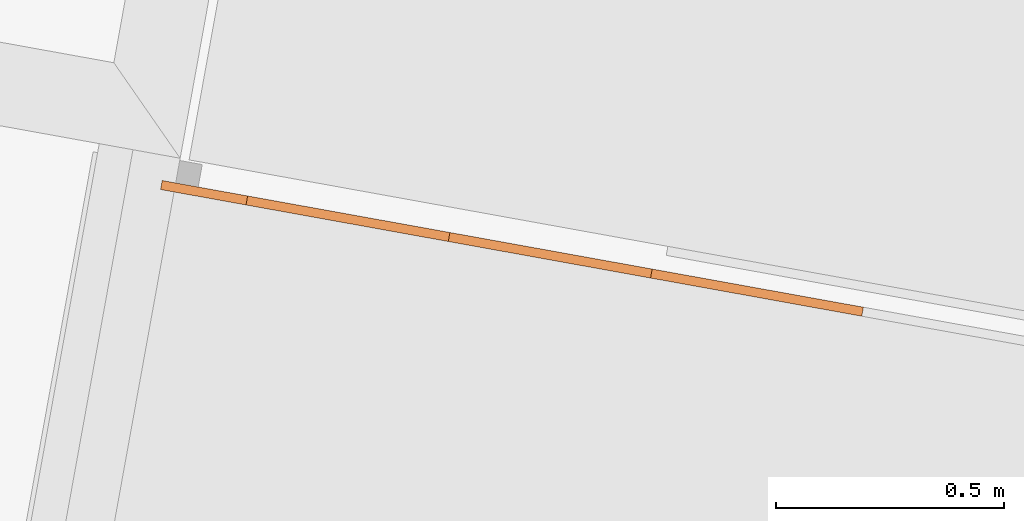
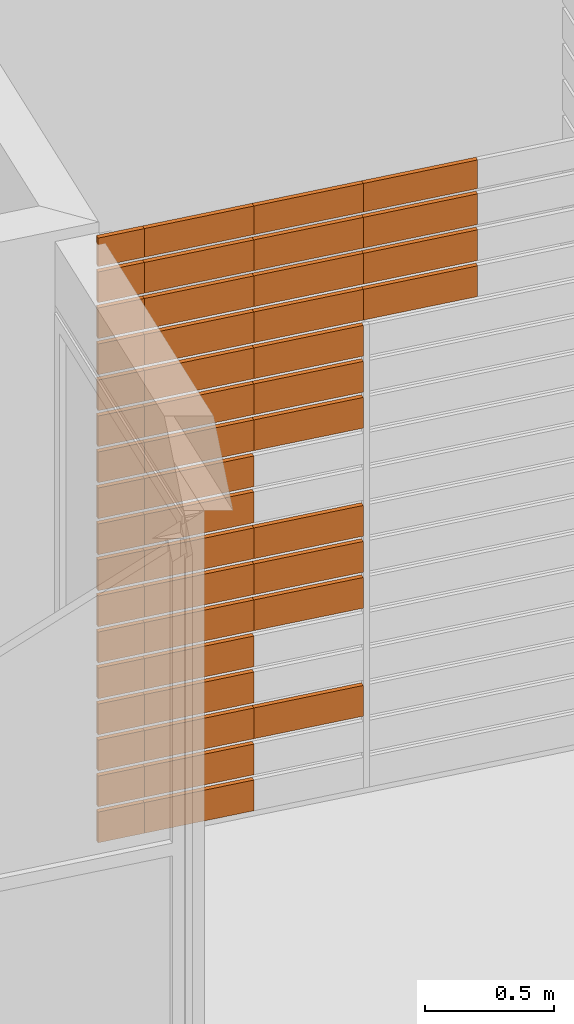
# One storey, part 28 of 52: 49 proxies, 1 element without a shape of its own.
"""IFC2X3 building model written with IfcOpenShell, lengths in metres."""

import ifcopenshell
import ifcopenshell.guid

model = None  # the IFC model being written
_history = None  # IfcOwnerHistory: only IFC2X3 demands one
_inside = {}  # id of a spatial element -> (the spatial element, [elements in it])
_under = {}  # id of a project, library or spatial element -> (it, [spatial elements below it])
_declared = {}  # id of a project -> (the project, [libraries it declares])
_typed = {}  # id of a type object -> (the type object, [elements of that type])
_made_of = {}  # id of a material, layer set ... -> (it, [elements and type objects made of it])


def new_model(schema):
    """Start an empty IFC model of exactly this schema.

    Asked for "IFC4X3", IfcOpenShell would pick the latest addendum, in which some entities
    have other attributes; the version numbers below select the first issue.
    IFC2X3 requires an IfcOwnerHistory on every rooted entity: one is made here for all.
    """
    global model, _history
    if schema == "IFC4X3":
        model = ifcopenshell.file(schema_version=(4, 3, 0, 0))
    else:
        model = ifcopenshell.file(schema=schema)
    _inside.clear()
    _under.clear()
    _declared.clear()
    _typed.clear()
    _made_of.clear()
    _history = None
    if model.schema == "IFC2X3":
        org = make("IfcOrganization", Name="unknown")
        user = make(
            "IfcPersonAndOrganization",
            ThePerson=make("IfcPerson", FamilyName="unknown"),
            TheOrganization=org,
        )
        app = make(
            "IfcApplication",
            ApplicationDeveloper=org,
            Version="unknown",
            ApplicationFullName="unknown",
            ApplicationIdentifier="unknown",
        )
        _history = make(
            "IfcOwnerHistory",
            OwningUser=user,
            OwningApplication=app,
            ChangeAction="ADDED",
            CreationDate=0,
        )
    return model


def make(cls, **values):
    """One entity of the class cls with the attributes given. An attribute that is None is left unset."""
    return model.create_entity(
        cls, **{name: value for name, value in values.items() if value is not None}
    )


def entity(cls, *values):
    """Any entity or typed value of the class cls, its attributes in the order of the schema. None: left unset."""
    e = model.create_entity(cls)
    for i, value in enumerate(values):
        if value is not None:
            e[i] = value
    return e


def rooted(cls, **values):
    """An entity with a GlobalId (a new one), such as an element, a storey or a relation."""
    return make(cls, GlobalId=ifcopenshell.guid.new(), OwnerHistory=_history, **values)


def si_unit(unit_type, name, prefix=None):
    """IfcSIUnit, for example si_unit("LENGTHUNIT", "METRE", prefix="MILLI")."""
    return make("IfcSIUnit", UnitType=unit_type, Prefix=prefix, Name=name)


def converted_unit(unit_type, name, factor, base, dimensions=None, offset=None):
    """IfcConversionBasedUnit, such as the inch: factor (a typed value) times the base unit."""
    return make(
        "IfcConversionBasedUnit"
        if offset is None
        else "IfcConversionBasedUnitWithOffset",
        ConversionOffset=offset,
        Dimensions=None
        if dimensions is None
        else entity("IfcDimensionalExponents", *dimensions),
        UnitType=unit_type,
        Name=name,
        ConversionFactor=make(
            "IfcMeasureWithUnit", ValueComponent=factor, UnitComponent=base
        ),
    )


def derived_unit(unit_type, elements):
    """IfcDerivedUnit: a product of units, each with its exponent."""
    return make(
        "IfcDerivedUnit",
        Elements=[
            make("IfcDerivedUnitElement", Unit=unit, Exponent=power)
            for unit, power in elements
        ],
        UnitType=unit_type,
    )


def money_unit(currency):
    """IfcMonetaryUnit."""
    return make("IfcMonetaryUnit", Currency=currency)


def assignment(units):
    """IfcUnitAssignment: the units of a project."""
    return None if units is None else make("IfcUnitAssignment", Units=units)


def point(xyz):
    """IfcCartesianPoint."""
    return None if xyz is None else make("IfcCartesianPoint", Coordinates=xyz)


def direction(xyz):
    """IfcDirection."""
    return None if xyz is None else make("IfcDirection", DirectionRatios=xyz)


def frame(location, z_axis=None, x_axis=None):
    """IfcAxis2Placement3D, a coordinate frame: its origin and axes. An axis left out is left unset."""
    return make(
        "IfcAxis2Placement3D",
        Location=point(location),
        Axis=direction(z_axis),
        RefDirection=direction(x_axis),
    )


def origin_with_axes():
    """The frame at (0, 0, 0) with the z axis (0, 0, 1) and the x axis (1, 0, 0) written out."""
    return frame((0.0, 0.0, 0.0), z_axis=(0.0, 0.0, 1.0), x_axis=(1.0, 0.0, 0.0))


def place(relative_to, where):
    """IfcLocalPlacement: puts the frame where relative to a parent placement (None: the world)."""
    return make(
        "IfcLocalPlacement", PlacementRelTo=relative_to, RelativePlacement=where
    )


def context(
    kind, dimensions, precision=None, world=None, true_north=None, identifier=None
):
    """IfcGeometricRepresentationContext, for example the 3D "Model" context."""
    return make(
        "IfcGeometricRepresentationContext",
        ContextIdentifier=identifier,
        ContextType=kind,
        CoordinateSpaceDimension=dimensions,
        Precision=precision,
        WorldCoordinateSystem=world,
        TrueNorth=true_north,
    )


def subcontext(parent, identifier, kind, view, scale=None):
    """IfcGeometricRepresentationSubContext, for example "Body" below "Model"."""
    return make(
        "IfcGeometricRepresentationSubContext",
        ContextIdentifier=identifier,
        ContextType=kind,
        ParentContext=parent,
        TargetScale=scale,
        TargetView=view,
    )


def project(units=None, contexts=None):
    """IfcProject with its units and contexts."""
    return rooted(
        "IfcProject",
        Name="project",
        RepresentationContexts=contexts,
        UnitsInContext=assignment(units),
    )


def spatial(cls, under=None, at=None, **own):
    """A site, building, storey or space (cls), placed at a placement, below another one or the project."""
    s = rooted(cls, ObjectPlacement=at, **own)
    if under is not None:
        _under.setdefault(under.id(), (under, []))[1].append(s)
    return s


def polyline(points):
    """IfcPolyline through the points."""
    return make("IfcPolyline", Points=[point(p) for p in points])


def outline(outer, holes=None, kind="AREA"):
    """IfcArbitraryClosedProfileDef: a profile drawn as a closed curve; with holes, ...WithVoids."""
    if holes is None:
        return make("IfcArbitraryClosedProfileDef", ProfileType=kind, OuterCurve=outer)
    return make(
        "IfcArbitraryProfileDefWithVoids",
        ProfileType=kind,
        OuterCurve=outer,
        InnerCurves=holes,
    )


def extrude(swept, where, along, depth):
    """IfcExtrudedAreaSolid: the profile swept, set in the frame where, extruded along a direction by depth."""
    return make(
        "IfcExtrudedAreaSolid",
        SweptArea=swept,
        Position=where,
        ExtrudedDirection=direction(along),
        Depth=depth,
    )


def shape(context_of_items, identifier, shape_type, items):
    """IfcShapeRepresentation: the items that make up one representation, for example the "Body"."""
    return make(
        "IfcShapeRepresentation",
        ContextOfItems=context_of_items,
        RepresentationIdentifier=identifier,
        RepresentationType=shape_type,
        Items=items,
    )


def material(Name=None, Category=None):
    """IfcMaterial."""
    return make("IfcMaterial", Name=Name, Category=Category)


def made_of(thing, what):
    """Note that an element or type object is made of a material, layer set ...; save() writes the relation."""
    if what is not None:
        _made_of.setdefault(what.id(), (what, []))[1].append(thing)
    return thing


def type_object(cls, material=None, **own):
    """A type object (cls), such as IfcWallType, which elements share."""
    return made_of(rooted(cls, **own), material)


def element(
    cls,
    number,
    at=None,
    inside=None,
    cuts=None,
    type_object=None,
    material=None,
    context=None,
    identifier="Body",
    shape_type=None,
    held_by="IfcProductDefinitionShape",
    body=None,
    shapes=None,
    **own,
):
    """One element of the class cls, such as IfcWall. Its Tag is "e" and its number.

    at: its placement. inside: the storey or other place that contains it. cuts: it is an
    opening in that element (IfcRelVoidsElement). A single representation is given by context,
    identifier, shape_type and body (its items); several are given by shapes. held_by: the class
    of the entity that holds the representations. save() writes the other relations.
    """
    e = rooted(cls, Tag="e%d" % number, ObjectPlacement=at, **own)
    if body is not None:
        shapes = [shape(context, identifier, shape_type, body)]
    if shapes is not None:
        e.Representation = make(held_by, Representations=shapes)
    if inside is not None:
        _inside.setdefault(inside.id(), (inside, []))[1].append(e)
    if cuts is not None:
        rooted(
            "IfcRelVoidsElement", RelatingBuildingElement=cuts, RelatedOpeningElement=e
        )
    if type_object is not None:
        _typed.setdefault(type_object.id(), (type_object, []))[1].append(e)
    return made_of(e, material)


def aggregate(whole, parts):
    """IfcRelAggregates: a whole, such as a stair, and the parts it consists of."""
    return rooted("IfcRelAggregates", RelatingObject=whole, RelatedObjects=parts)


def save(model, path):
    """Write the relations noted so far, then the file.

    IfcRelAggregates (storeys below a building ...), IfcRelContainedInSpatialStructure (elements
    in a storey), IfcRelDefinesByType, IfcRelAssociatesMaterial and IfcRelDeclares: one each for
    every whole, place, type object, material and project.
    """
    for whole, parts in _under.values():
        aggregate(whole, parts)
    for where, things in _inside.values():
        rooted(
            "IfcRelContainedInSpatialStructure",
            RelatedElements=things,
            RelatingStructure=where,
        )
    for kind, things in _typed.values():
        rooted("IfcRelDefinesByType", RelatedObjects=things, RelatingType=kind)
    for what, things in _made_of.values():
        rooted("IfcRelAssociatesMaterial", RelatedObjects=things, RelatingMaterial=what)
    for by, libraries in _declared.values():
        rooted("IfcRelDeclares", RelatingContext=by, RelatedDefinitions=libraries)
    model.write(path)


model = new_model("IFC2X3")

# Units and contexts
model_context = context("Model", 3, precision=1e-05, world=origin_with_axes(), true_north=direction((0.0, 1.0)))
body_context = subcontext(model_context, "Body", "Model", "MODEL_VIEW")
ifc_project = project(units=[si_unit("LENGTHUNIT", "METRE"), si_unit("AREAUNIT", "SQUARE_METRE"), si_unit("VOLUMEUNIT", "CUBIC_METRE"), converted_unit("PLANEANGLEUNIT", "DEGREE", entity("IfcPlaneAngleMeasure", 0.0174532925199), si_unit("PLANEANGLEUNIT", "RADIAN"), dimensions=[0, 0, 0, 0, 0, 0, 0]), money_unit("CHF"), converted_unit("TIMEUNIT", "Year", entity("IfcTimeMeasure", 31556926.0), si_unit("TIMEUNIT", "SECOND"), dimensions=[0, 0, 1, 0, 0, 0, 0]), si_unit("MASSUNIT", "GRAM", prefix="KILO"), si_unit("THERMODYNAMICTEMPERATUREUNIT", "DEGREE_CELSIUS"), si_unit("LUMINOUSINTENSITYUNIT", "LUMEN"), si_unit("ENERGYUNIT", "JOULE", prefix="MEGA"), derived_unit("THERMALCONDUCTANCEUNIT", [(si_unit("POWERUNIT", "WATT"), 1), (si_unit("LENGTHUNIT", "METRE"), -1), (si_unit("THERMODYNAMICTEMPERATUREUNIT", "KELVIN"), -1)]), derived_unit("SPECIFICHEATCAPACITYUNIT", [(si_unit("ENERGYUNIT", "JOULE"), 1), (si_unit("MASSUNIT", "GRAM", prefix="KILO"), -1), (si_unit("THERMODYNAMICTEMPERATUREUNIT", "KELVIN"), -1)]), derived_unit("MASSDENSITYUNIT", [(si_unit("MASSUNIT", "GRAM", prefix="KILO"), 1), (si_unit("VOLUMEUNIT", "CUBIC_METRE"), -1)])], contexts=[model_context])

# Site, building, storey
site_placement = place(None, frame((0.0, 0.0, 0.0), z_axis=(0.0, 0.0, 1.0), x_axis=(-0.177771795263, -0.984071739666, 0.0)))
site = spatial("IfcSite", under=ifc_project, at=site_placement, Name="Site", CompositionType="ELEMENT")
building_placement = place(site_placement, origin_with_axes())
building = spatial("IfcBuilding", under=site, at=building_placement, Name="Bâtiment", CompositionType="ELEMENT")
storey_placement = place(building_placement, frame((0.0, 0.0, 3.2), z_axis=(0.0, 0.0, 1.0), x_axis=(1.0, 0.0, 0.0)))
storey = spatial("IfcBuildingStorey", under=building, at=storey_placement, Name="R+1", CompositionType="ELEMENT", Elevation=3.2)

# Curtain wall, proxies
curtain_wall_type = type_object("IfcCurtainWallType", Name="Type de mur-rideau", PredefinedType="NOTDEFINED")
curtain_wall_placement = place(storey_placement, frame((0.0, 0.0, -3.2), z_axis=(0.0, 0.0, 1.0), x_axis=(1.0, 0.0, 0.0)))
curtain_wall = element("IfcCurtainWall", 1, at=curtain_wall_placement, inside=storey, type_object=curtain_wall_type, Name="pare-vue CTA")
ifc_material = material(Name="Matériau de construction IFC")
building_element_proxy_type_1 = type_object("IfcBuildingElementProxyType", Name="Panneau principal 450 x 170 x 20", PredefinedType="NOTDEFINED")
proxy_1_placement = place(curtain_wall_placement, frame((141.359841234, -151.882034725, 5.5075), z_axis=(0.0, 0.0, 1.0), x_axis=(-4.03765126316e-09, 1.0, 0.0)))
proxy_1 = element("IfcBuildingElementProxy", 2, at=proxy_1_placement, type_object=building_element_proxy_type_1, material=ifc_material, Name="Panel-Main-242", context=body_context, shape_type="SweptSolid", body=[
    extrude(outline(polyline([(-0.225, -0.0725), (0.225, -0.0725), (0.225, 0.0725000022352), (-0.225, 0.0725000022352), (-0.225, -0.0725)])), frame((0.0, -0.00999999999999, 0.0), z_axis=(0.0, 1.0, 0.0), x_axis=(1.0, 0.0, 0.0)), (0.0, 0.0, 1.0), 0.02),
])
proxy_2_placement = place(curtain_wall_placement, frame((141.359841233, -151.432034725, 5.8475), z_axis=(0.0, 0.0, 1.0), x_axis=(-4.03758798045e-09, 1.0, 0.0)))
proxy_2 = element("IfcBuildingElementProxy", 3, at=proxy_2_placement, type_object=building_element_proxy_type_1, material=ifc_material, Name="Panel-Main-208", context=body_context, shape_type="SweptSolid", body=[
    extrude(outline(polyline([(-0.225, -0.0725), (0.225, -0.0725), (0.225, 0.0725000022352), (-0.225, 0.0725000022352), (-0.225, -0.0725)])), frame((0.0, -0.01, 0.0), z_axis=(0.0, 1.0, 0.0), x_axis=(1.0, 0.0, 0.0)), (0.0, 0.0, 1.0), 0.02),
])
proxy_3_placement = place(curtain_wall_placement, frame((141.359841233, -151.432034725, 5.6775), z_axis=(0.0, 0.0, 1.0), x_axis=(-4.03758798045e-09, 1.0, 0.0)))
proxy_3 = element("IfcBuildingElementProxy", 4, at=proxy_3_placement, type_object=building_element_proxy_type_1, material=ifc_material, Name="Panel-Main-208", context=body_context, shape_type="SweptSolid", body=[
    extrude(outline(polyline([(-0.225, -0.0725), (0.225, -0.0725), (0.225, 0.0725000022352), (-0.225, 0.0725000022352), (-0.225, -0.0725)])), frame((0.0, -0.01, 0.0), z_axis=(0.0, 1.0, 0.0), x_axis=(1.0, 0.0, 0.0)), (0.0, 0.0, 1.0), 0.02),
])
proxy_4_placement = place(curtain_wall_placement, frame((141.359841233, -151.432034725, 5.5075), z_axis=(0.0, 0.0, 1.0), x_axis=(-4.03758798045e-09, 1.0, 0.0)))
proxy_4 = element("IfcBuildingElementProxy", 5, at=proxy_4_placement, type_object=building_element_proxy_type_1, material=ifc_material, Name="Panel-Main-208", context=body_context, shape_type="SweptSolid", body=[
    extrude(outline(polyline([(-0.225, -0.0725), (0.225, -0.0725), (0.225, 0.0725000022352), (-0.225, 0.0725000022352), (-0.225, -0.0725)])), frame((0.0, -0.01, 0.0), z_axis=(0.0, 1.0, 0.0), x_axis=(1.0, 0.0, 0.0)), (0.0, 0.0, 1.0), 0.02),
])
proxy_5_placement = place(curtain_wall_placement, frame((141.359841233, -151.432034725, 5.3375), z_axis=(0.0, 0.0, 1.0), x_axis=(-4.03758798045e-09, 1.0, 0.0)))
proxy_5 = element("IfcBuildingElementProxy", 6, at=proxy_5_placement, type_object=building_element_proxy_type_1, material=ifc_material, Name="Panel-Main-208", context=body_context, shape_type="SweptSolid", body=[
    extrude(outline(polyline([(-0.225, -0.0725), (0.225, -0.0725), (0.225, 0.0725000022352), (-0.225, 0.0725000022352), (-0.225, -0.0725)])), frame((0.0, -0.01, 0.0), z_axis=(0.0, 1.0, 0.0), x_axis=(1.0, 0.0, 0.0)), (0.0, 0.0, 1.0), 0.02),
])
proxy_6_placement = place(curtain_wall_placement, frame((141.359841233, -151.432034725, 5.1675), z_axis=(0.0, 0.0, 1.0), x_axis=(-4.03758798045e-09, 1.0, 0.0)))
proxy_6 = element("IfcBuildingElementProxy", 7, at=proxy_6_placement, type_object=building_element_proxy_type_1, material=ifc_material, Name="Panel-Main-208", context=body_context, shape_type="SweptSolid", body=[
    extrude(outline(polyline([(-0.225, -0.0725), (0.225, -0.0725), (0.225, 0.0725000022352), (-0.225, 0.0725000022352), (-0.225, -0.0725)])), frame((0.0, -0.01, 0.0), z_axis=(0.0, 1.0, 0.0), x_axis=(1.0, 0.0, 0.0)), (0.0, 0.0, 1.0), 0.02),
])
proxy_7_placement = place(curtain_wall_placement, frame((141.359841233, -151.432034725, 4.9975), z_axis=(0.0, 0.0, 1.0), x_axis=(-4.03758798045e-09, 1.0, 0.0)))
proxy_7 = element("IfcBuildingElementProxy", 8, at=proxy_7_placement, type_object=building_element_proxy_type_1, material=ifc_material, Name="Panel-Main-208", context=body_context, shape_type="SweptSolid", body=[
    extrude(outline(polyline([(-0.225, -0.0725), (0.225, -0.0725), (0.225, 0.0725000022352), (-0.225, 0.0725000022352), (-0.225, -0.0725)])), frame((0.0, -0.01, 0.0), z_axis=(0.0, 1.0, 0.0), x_axis=(1.0, 0.0, 0.0)), (0.0, 0.0, 1.0), 0.02),
])
proxy_8_placement = place(curtain_wall_placement, frame((141.359841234, -151.882034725, 5.6775), z_axis=(0.0, 0.0, 1.0), x_axis=(-4.03765126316e-09, 1.0, 0.0)))
proxy_8 = element("IfcBuildingElementProxy", 9, at=proxy_8_placement, type_object=building_element_proxy_type_1, material=ifc_material, Name="Panel-Main-243", context=body_context, shape_type="SweptSolid", body=[
    extrude(outline(polyline([(-0.225, -0.0725), (0.225, -0.0725), (0.225, 0.0725000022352), (-0.225, 0.0725000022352), (-0.225, -0.0725)])), frame((0.0, -0.00999999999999, 0.0), z_axis=(0.0, 1.0, 0.0), x_axis=(1.0, 0.0, 0.0)), (0.0, 0.0, 1.0), 0.02),
])
proxy_9_placement = place(curtain_wall_placement, frame((141.359841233, -151.432034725, 4.4875), z_axis=(0.0, 0.0, 1.0), x_axis=(-4.03758798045e-09, 1.0, 0.0)))
proxy_9 = element("IfcBuildingElementProxy", 10, at=proxy_9_placement, type_object=building_element_proxy_type_1, material=ifc_material, Name="Panel-Main-208", context=body_context, shape_type="SweptSolid", body=[
    extrude(outline(polyline([(-0.225, -0.0725), (0.225, -0.0725), (0.225, 0.0725000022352), (-0.225, 0.0725000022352), (-0.225, -0.0725)])), frame((0.0, -0.01, 0.0), z_axis=(0.0, 1.0, 0.0), x_axis=(1.0, 0.0, 0.0)), (0.0, 0.0, 1.0), 0.02),
])
proxy_10_placement = place(curtain_wall_placement, frame((141.359841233, -151.432034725, 4.3175), z_axis=(0.0, 0.0, 1.0), x_axis=(-4.03758798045e-09, 1.0, 0.0)))
proxy_10 = element("IfcBuildingElementProxy", 11, at=proxy_10_placement, type_object=building_element_proxy_type_1, material=ifc_material, Name="Panel-Main-208", context=body_context, shape_type="SweptSolid", body=[
    extrude(outline(polyline([(-0.225, -0.0725), (0.225, -0.0725), (0.225, 0.0725000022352), (-0.225, 0.0725000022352), (-0.225, -0.0725)])), frame((0.0, -0.01, 0.0), z_axis=(0.0, 1.0, 0.0), x_axis=(1.0, 0.0, 0.0)), (0.0, 0.0, 1.0), 0.02),
])
proxy_11_placement = place(curtain_wall_placement, frame((141.359841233, -151.432034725, 4.1475), z_axis=(0.0, 0.0, 1.0), x_axis=(-4.03758798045e-09, 1.0, 0.0)))
proxy_11 = element("IfcBuildingElementProxy", 12, at=proxy_11_placement, type_object=building_element_proxy_type_1, material=ifc_material, Name="Panel-Main-208", context=body_context, shape_type="SweptSolid", body=[
    extrude(outline(polyline([(-0.225, -0.0725), (0.225, -0.0725), (0.225, 0.0725000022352), (-0.225, 0.0725000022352), (-0.225, -0.0725)])), frame((0.0, -0.01, 0.0), z_axis=(0.0, 1.0, 0.0), x_axis=(1.0, 0.0, 0.0)), (0.0, 0.0, 1.0), 0.02),
])
proxy_12_placement = place(curtain_wall_placement, frame((141.359841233, -151.432034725, 3.6375), z_axis=(0.0, 0.0, 1.0), x_axis=(-4.03758798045e-09, 1.0, 0.0)))
proxy_12 = element("IfcBuildingElementProxy", 13, at=proxy_12_placement, type_object=building_element_proxy_type_1, material=ifc_material, Name="Panel-Main-208", context=body_context, shape_type="SweptSolid", body=[
    extrude(outline(polyline([(-0.225, -0.0725), (0.225, -0.0725), (0.225, 0.0725000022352), (-0.225, 0.0725000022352), (-0.225, -0.0725)])), frame((0.0, -0.01, 0.0), z_axis=(0.0, 1.0, 0.0), x_axis=(1.0, 0.0, 0.0)), (0.0, 0.0, 1.0), 0.02),
])
proxy_13_placement = place(curtain_wall_placement, frame((141.359841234, -151.882034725, 5.8475), z_axis=(0.0, 0.0, 1.0), x_axis=(-4.03765126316e-09, 1.0, 0.0)))
proxy_13 = element("IfcBuildingElementProxy", 14, at=proxy_13_placement, type_object=building_element_proxy_type_1, material=ifc_material, Name="Panel-Main-244", context=body_context, shape_type="SweptSolid", body=[
    extrude(outline(polyline([(-0.225, -0.0725), (0.225, -0.0725), (0.225, 0.0725000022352), (-0.225, 0.0725000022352), (-0.225, -0.0725)])), frame((0.0, -0.00999999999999, 0.0), z_axis=(0.0, 1.0, 0.0), x_axis=(1.0, 0.0, 0.0)), (0.0, 0.0, 1.0), 0.02),
])
proxy_14_placement = place(curtain_wall_placement, frame((141.359841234, -151.882034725, 3.2975), z_axis=(0.0, 0.0, 1.0), x_axis=(-4.03765126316e-09, 1.0, 0.0)))
proxy_14 = element("IfcBuildingElementProxy", 15, at=proxy_14_placement, type_object=building_element_proxy_type_1, material=ifc_material, Name="Panel-Main-229", context=body_context, shape_type="SweptSolid", body=[
    extrude(outline(polyline([(-0.225, -0.0725), (0.225, -0.0725), (0.225, 0.0725000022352), (-0.225, 0.0725000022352), (-0.225, -0.0725)])), frame((0.0, -0.00999999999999, 0.0), z_axis=(0.0, 1.0, 0.0), x_axis=(1.0, 0.0, 0.0)), (0.0, 0.0, 1.0), 0.02),
])
proxy_15_placement = place(curtain_wall_placement, frame((141.359841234, -151.882034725, 3.4675), z_axis=(0.0, 0.0, 1.0), x_axis=(-4.03765126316e-09, 1.0, 0.0)))
proxy_15 = element("IfcBuildingElementProxy", 16, at=proxy_15_placement, type_object=building_element_proxy_type_1, material=ifc_material, Name="Panel-Main-230", context=body_context, shape_type="SweptSolid", body=[
    extrude(outline(polyline([(-0.225, -0.0725), (0.225, -0.0725), (0.225, 0.0725000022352), (-0.225, 0.0725000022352), (-0.225, -0.0725)])), frame((0.0, -0.00999999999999, 0.0), z_axis=(0.0, 1.0, 0.0), x_axis=(1.0, 0.0, 0.0)), (0.0, 0.0, 1.0), 0.02),
])
proxy_16_placement = place(curtain_wall_placement, frame((141.359841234, -151.882034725, 3.6375), z_axis=(0.0, 0.0, 1.0), x_axis=(-4.03765126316e-09, 1.0, 0.0)))
proxy_16 = element("IfcBuildingElementProxy", 17, at=proxy_16_placement, type_object=building_element_proxy_type_1, material=ifc_material, Name="Panel-Main-231", context=body_context, shape_type="SweptSolid", body=[
    extrude(outline(polyline([(-0.225, -0.0725), (0.225, -0.0725), (0.225, 0.0725000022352), (-0.225, 0.0725000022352), (-0.225, -0.0725)])), frame((0.0, -0.00999999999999, 0.0), z_axis=(0.0, 1.0, 0.0), x_axis=(1.0, 0.0, 0.0)), (0.0, 0.0, 1.0), 0.02),
])
proxy_17_placement = place(curtain_wall_placement, frame((141.359841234, -151.882034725, 3.8075), z_axis=(0.0, 0.0, 1.0), x_axis=(-4.03765126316e-09, 1.0, 0.0)))
proxy_17 = element("IfcBuildingElementProxy", 18, at=proxy_17_placement, type_object=building_element_proxy_type_1, material=ifc_material, Name="Panel-Main-232", context=body_context, shape_type="SweptSolid", body=[
    extrude(outline(polyline([(-0.225, -0.0725), (0.225, -0.0725), (0.225, 0.0725000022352), (-0.225, 0.0725000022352), (-0.225, -0.0725)])), frame((0.0, -0.00999999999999, 0.0), z_axis=(0.0, 1.0, 0.0), x_axis=(1.0, 0.0, 0.0)), (0.0, 0.0, 1.0), 0.02),
])
proxy_18_placement = place(curtain_wall_placement, frame((141.359841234, -151.882034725, 3.9775), z_axis=(0.0, 0.0, 1.0), x_axis=(-4.03765126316e-09, 1.0, 0.0)))
proxy_18 = element("IfcBuildingElementProxy", 19, at=proxy_18_placement, type_object=building_element_proxy_type_1, material=ifc_material, Name="Panel-Main-233", context=body_context, shape_type="SweptSolid", body=[
    extrude(outline(polyline([(-0.225, -0.0725), (0.225, -0.0725), (0.225, 0.0725000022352), (-0.225, 0.0725000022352), (-0.225, -0.0725)])), frame((0.0, -0.00999999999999, 0.0), z_axis=(0.0, 1.0, 0.0), x_axis=(1.0, 0.0, 0.0)), (0.0, 0.0, 1.0), 0.02),
])
proxy_19_placement = place(curtain_wall_placement, frame((141.359841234, -151.882034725, 4.1475), z_axis=(0.0, 0.0, 1.0), x_axis=(-4.03765126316e-09, 1.0, 0.0)))
proxy_19 = element("IfcBuildingElementProxy", 20, at=proxy_19_placement, type_object=building_element_proxy_type_1, material=ifc_material, Name="Panel-Main-234", context=body_context, shape_type="SweptSolid", body=[
    extrude(outline(polyline([(-0.225, -0.0725), (0.225, -0.0725), (0.225, 0.0725000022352), (-0.225, 0.0725000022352), (-0.225, -0.0725)])), frame((0.0, -0.00999999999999, 0.0), z_axis=(0.0, 1.0, 0.0), x_axis=(1.0, 0.0, 0.0)), (0.0, 0.0, 1.0), 0.02),
])
proxy_20_placement = place(curtain_wall_placement, frame((141.359841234, -151.882034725, 4.3175), z_axis=(0.0, 0.0, 1.0), x_axis=(-4.03765126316e-09, 1.0, 0.0)))
proxy_20 = element("IfcBuildingElementProxy", 21, at=proxy_20_placement, type_object=building_element_proxy_type_1, material=ifc_material, Name="Panel-Main-235", context=body_context, shape_type="SweptSolid", body=[
    extrude(outline(polyline([(-0.225, -0.0725), (0.225, -0.0725), (0.225, 0.0725000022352), (-0.225, 0.0725000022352), (-0.225, -0.0725)])), frame((0.0, -0.00999999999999, 0.0), z_axis=(0.0, 1.0, 0.0), x_axis=(1.0, 0.0, 0.0)), (0.0, 0.0, 1.0), 0.02),
])
proxy_21_placement = place(curtain_wall_placement, frame((141.359841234, -151.882034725, 4.4875), z_axis=(0.0, 0.0, 1.0), x_axis=(-4.03765126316e-09, 1.0, 0.0)))
proxy_21 = element("IfcBuildingElementProxy", 22, at=proxy_21_placement, type_object=building_element_proxy_type_1, material=ifc_material, Name="Panel-Main-236", context=body_context, shape_type="SweptSolid", body=[
    extrude(outline(polyline([(-0.225, -0.0725), (0.225, -0.0725), (0.225, 0.0725000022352), (-0.225, 0.0725000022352), (-0.225, -0.0725)])), frame((0.0, -0.00999999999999, 0.0), z_axis=(0.0, 1.0, 0.0), x_axis=(1.0, 0.0, 0.0)), (0.0, 0.0, 1.0), 0.02),
])
proxy_22_placement = place(curtain_wall_placement, frame((141.359841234, -151.882034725, 4.6575), z_axis=(0.0, 0.0, 1.0), x_axis=(-4.03765126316e-09, 1.0, 0.0)))
proxy_22 = element("IfcBuildingElementProxy", 23, at=proxy_22_placement, type_object=building_element_proxy_type_1, material=ifc_material, Name="Panel-Main-237", context=body_context, shape_type="SweptSolid", body=[
    extrude(outline(polyline([(-0.225, -0.0725), (0.225, -0.0725), (0.225, 0.0725000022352), (-0.225, 0.0725000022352), (-0.225, -0.0725)])), frame((0.0, -0.00999999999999, 0.0), z_axis=(0.0, 1.0, 0.0), x_axis=(1.0, 0.0, 0.0)), (0.0, 0.0, 1.0), 0.02),
])
proxy_23_placement = place(curtain_wall_placement, frame((141.359841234, -151.882034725, 4.8275), z_axis=(0.0, 0.0, 1.0), x_axis=(-4.03765126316e-09, 1.0, 0.0)))
proxy_23 = element("IfcBuildingElementProxy", 24, at=proxy_23_placement, type_object=building_element_proxy_type_1, material=ifc_material, Name="Panel-Main-238", context=body_context, shape_type="SweptSolid", body=[
    extrude(outline(polyline([(-0.225, -0.0725), (0.225, -0.0725), (0.225, 0.0725000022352), (-0.225, 0.0725000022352), (-0.225, -0.0725)])), frame((0.0, -0.00999999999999, 0.0), z_axis=(0.0, 1.0, 0.0), x_axis=(1.0, 0.0, 0.0)), (0.0, 0.0, 1.0), 0.02),
])
proxy_24_placement = place(curtain_wall_placement, frame((141.359841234, -151.882034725, 4.9975), z_axis=(0.0, 0.0, 1.0), x_axis=(-4.03765126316e-09, 1.0, 0.0)))
proxy_24 = element("IfcBuildingElementProxy", 25, at=proxy_24_placement, type_object=building_element_proxy_type_1, material=ifc_material, Name="Panel-Main-239", context=body_context, shape_type="SweptSolid", body=[
    extrude(outline(polyline([(-0.225, -0.0725), (0.225, -0.0725), (0.225, 0.0725000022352), (-0.225, 0.0725000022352), (-0.225, -0.0725)])), frame((0.0, -0.00999999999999, 0.0), z_axis=(0.0, 1.0, 0.0), x_axis=(1.0, 0.0, 0.0)), (0.0, 0.0, 1.0), 0.02),
])
proxy_25_placement = place(curtain_wall_placement, frame((141.359841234, -151.882034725, 5.1675), z_axis=(0.0, 0.0, 1.0), x_axis=(-4.03765126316e-09, 1.0, 0.0)))
proxy_25 = element("IfcBuildingElementProxy", 26, at=proxy_25_placement, type_object=building_element_proxy_type_1, material=ifc_material, Name="Panel-Main-240", context=body_context, shape_type="SweptSolid", body=[
    extrude(outline(polyline([(-0.225, -0.0725), (0.225, -0.0725), (0.225, 0.0725000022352), (-0.225, 0.0725000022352), (-0.225, -0.0725)])), frame((0.0, -0.00999999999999, 0.0), z_axis=(0.0, 1.0, 0.0), x_axis=(1.0, 0.0, 0.0)), (0.0, 0.0, 1.0), 0.02),
])
proxy_26_placement = place(curtain_wall_placement, frame((141.359841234, -151.882034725, 5.3375), z_axis=(0.0, 0.0, 1.0), x_axis=(-4.03765126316e-09, 1.0, 0.0)))
proxy_26 = element("IfcBuildingElementProxy", 27, at=proxy_26_placement, type_object=building_element_proxy_type_1, material=ifc_material, Name="Panel-Main-241", context=body_context, shape_type="SweptSolid", body=[
    extrude(outline(polyline([(-0.225, -0.0725), (0.225, -0.0725), (0.225, 0.0725000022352), (-0.225, 0.0725000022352), (-0.225, -0.0725)])), frame((0.0, -0.00999999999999, 0.0), z_axis=(0.0, 1.0, 0.0), x_axis=(1.0, 0.0, 0.0)), (0.0, 0.0, 1.0), 0.02),
])
building_element_proxy_type_2 = type_object("IfcBuildingElementProxyType", Name="Panneau principal 470 x 170 x 20", PredefinedType="NOTDEFINED")
proxy_27_placement = place(curtain_wall_placement, frame((141.359841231, -150.972034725, 5.8475), z_axis=(0.0, 0.0, 1.0), x_axis=(-4.03763638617e-09, 1.0, 0.0)))
proxy_27 = element("IfcBuildingElementProxy", 28, at=proxy_27_placement, type_object=building_element_proxy_type_2, material=ifc_material, Name="Panel-Main-208", context=body_context, shape_type="SweptSolid", body=[
    extrude(outline(polyline([(-0.235, -0.0724999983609), (0.235, -0.0724999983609), (0.235, 0.0724999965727), (-0.235, 0.0724999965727), (-0.235, -0.0724999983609)])), frame((0.0, -0.00999999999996, 0.0), z_axis=(0.0, 1.0, 0.0), x_axis=(1.0, 0.0, 0.0)), (0.0, 0.0, 1.0), 0.02),
])
proxy_28_placement = place(curtain_wall_placement, frame((141.359841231, -150.972034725, 5.6775), z_axis=(0.0, 0.0, 1.0), x_axis=(-4.03763638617e-09, 1.0, 0.0)))
proxy_28 = element("IfcBuildingElementProxy", 29, at=proxy_28_placement, type_object=building_element_proxy_type_2, material=ifc_material, Name="Panel-Main-208", context=body_context, shape_type="SweptSolid", body=[
    extrude(outline(polyline([(-0.235, -0.0724999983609), (0.235, -0.0724999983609), (0.235, 0.0724999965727), (-0.235, 0.0724999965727), (-0.235, -0.0724999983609)])), frame((0.0, -0.00999999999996, 0.0), z_axis=(0.0, 1.0, 0.0), x_axis=(1.0, 0.0, 0.0)), (0.0, 0.0, 1.0), 0.02),
])
proxy_29_placement = place(curtain_wall_placement, frame((141.359841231, -150.972034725, 5.5075), z_axis=(0.0, 0.0, 1.0), x_axis=(-4.03763638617e-09, 1.0, 0.0)))
proxy_29 = element("IfcBuildingElementProxy", 30, at=proxy_29_placement, type_object=building_element_proxy_type_2, material=ifc_material, Name="Panel-Main-208", context=body_context, shape_type="SweptSolid", body=[
    extrude(outline(polyline([(-0.235, -0.0724999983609), (0.235, -0.0724999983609), (0.235, 0.0724999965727), (-0.235, 0.0724999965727), (-0.235, -0.0724999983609)])), frame((0.0, -0.00999999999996, 0.0), z_axis=(0.0, 1.0, 0.0), x_axis=(1.0, 0.0, 0.0)), (0.0, 0.0, 1.0), 0.02),
])
building_element_proxy_type_3 = type_object("IfcBuildingElementProxyType", Name="Panneau principal 190 x 170 x 20", PredefinedType="NOTDEFINED")
proxy_30_placement = place(curtain_wall_placement, frame((141.359841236, -152.202092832, 3.8075), z_axis=(0.0, 0.0, 1.0), x_axis=(-4.03763638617e-09, 1.0, 0.0)))
proxy_30 = element("IfcBuildingElementProxy", 31, at=proxy_30_placement, type_object=building_element_proxy_type_3, material=ifc_material, Name="Panel-Main-249", context=body_context, shape_type="SweptSolid", body=[
    extrude(outline(polyline([(-0.0950581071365, -0.0725000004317), (0.0950581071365, -0.0725000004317), (0.0950581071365, 0.0724999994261), (-0.0950581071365, 0.0724999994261), (-0.0950581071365, -0.0725000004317)])), frame((0.0, -0.00999999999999, 0.0), z_axis=(0.0, 1.0, 0.0), x_axis=(1.0, 0.0, 0.0)), (0.0, 0.0, 1.0), 0.02),
])
proxy_31_placement = place(curtain_wall_placement, frame((141.359841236, -152.202092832, 5.8475), z_axis=(0.0, 0.0, 1.0), x_axis=(-4.03763638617e-09, 1.0, 0.0)))
proxy_31 = element("IfcBuildingElementProxy", 32, at=proxy_31_placement, type_object=building_element_proxy_type_3, material=ifc_material, Name="Panel-Main-261", context=body_context, shape_type="SweptSolid", body=[
    extrude(outline(polyline([(-0.0950581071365, -0.0725000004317), (0.0950581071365, -0.0725000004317), (0.0950581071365, 0.0724999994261), (-0.0950581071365, 0.0724999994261), (-0.0950581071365, -0.0725000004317)])), frame((0.0, -0.00999999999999, 0.0), z_axis=(0.0, 1.0, 0.0), x_axis=(1.0, 0.0, 0.0)), (0.0, 0.0, 1.0), 0.02),
])
proxy_32_placement = place(curtain_wall_placement, frame((141.359841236, -152.202092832, 4.9975), z_axis=(0.0, 0.0, 1.0), x_axis=(-4.03763638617e-09, 1.0, 0.0)))
proxy_32 = element("IfcBuildingElementProxy", 33, at=proxy_32_placement, type_object=building_element_proxy_type_3, material=ifc_material, Name="Panel-Main-256", context=body_context, shape_type="SweptSolid", body=[
    extrude(outline(polyline([(-0.0950581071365, -0.0725000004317), (0.0950581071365, -0.0725000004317), (0.0950581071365, 0.0724999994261), (-0.0950581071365, 0.0724999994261), (-0.0950581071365, -0.0725000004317)])), frame((0.0, -0.00999999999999, 0.0), z_axis=(0.0, 1.0, 0.0), x_axis=(1.0, 0.0, 0.0)), (0.0, 0.0, 1.0), 0.02),
])
proxy_33_placement = place(curtain_wall_placement, frame((141.359841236, -152.202092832, 5.1675), z_axis=(0.0, 0.0, 1.0), x_axis=(-4.03763638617e-09, 1.0, 0.0)))
proxy_33 = element("IfcBuildingElementProxy", 34, at=proxy_33_placement, type_object=building_element_proxy_type_3, material=ifc_material, Name="Panel-Main-257", context=body_context, shape_type="SweptSolid", body=[
    extrude(outline(polyline([(-0.0950581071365, -0.0725000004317), (0.0950581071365, -0.0725000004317), (0.0950581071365, 0.0724999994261), (-0.0950581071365, 0.0724999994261), (-0.0950581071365, -0.0725000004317)])), frame((0.0, -0.00999999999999, 0.0), z_axis=(0.0, 1.0, 0.0), x_axis=(1.0, 0.0, 0.0)), (0.0, 0.0, 1.0), 0.02),
])
proxy_34_placement = place(curtain_wall_placement, frame((141.359841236, -152.202092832, 3.6375), z_axis=(0.0, 0.0, 1.0), x_axis=(-4.03763638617e-09, 1.0, 0.0)))
proxy_34 = element("IfcBuildingElementProxy", 35, at=proxy_34_placement, type_object=building_element_proxy_type_3, material=ifc_material, Name="Panel-Main-248", context=body_context, shape_type="SweptSolid", body=[
    extrude(outline(polyline([(-0.0950581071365, -0.0725000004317), (0.0950581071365, -0.0725000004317), (0.0950581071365, 0.0724999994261), (-0.0950581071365, 0.0724999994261), (-0.0950581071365, -0.0725000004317)])), frame((0.0, -0.00999999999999, 0.0), z_axis=(0.0, 1.0, 0.0), x_axis=(1.0, 0.0, 0.0)), (0.0, 0.0, 1.0), 0.02),
])
proxy_35_placement = place(curtain_wall_placement, frame((141.359841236, -152.202092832, 4.3175), z_axis=(0.0, 0.0, 1.0), x_axis=(-4.03763638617e-09, 1.0, 0.0)))
proxy_35 = element("IfcBuildingElementProxy", 36, at=proxy_35_placement, type_object=building_element_proxy_type_3, material=ifc_material, Name="Panel-Main-252", context=body_context, shape_type="SweptSolid", body=[
    extrude(outline(polyline([(-0.0950581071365, -0.0725000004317), (0.0950581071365, -0.0725000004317), (0.0950581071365, 0.0724999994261), (-0.0950581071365, 0.0724999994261), (-0.0950581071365, -0.0725000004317)])), frame((0.0, -0.00999999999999, 0.0), z_axis=(0.0, 1.0, 0.0), x_axis=(1.0, 0.0, 0.0)), (0.0, 0.0, 1.0), 0.02),
])
proxy_36_placement = place(curtain_wall_placement, frame((141.359841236, -152.202092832, 4.6575), z_axis=(0.0, 0.0, 1.0), x_axis=(-4.03763638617e-09, 1.0, 0.0)))
proxy_36 = element("IfcBuildingElementProxy", 37, at=proxy_36_placement, type_object=building_element_proxy_type_3, material=ifc_material, Name="Panel-Main-254", context=body_context, shape_type="SweptSolid", body=[
    extrude(outline(polyline([(-0.0950581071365, -0.0725000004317), (0.0950581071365, -0.0725000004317), (0.0950581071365, 0.0724999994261), (-0.0950581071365, 0.0724999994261), (-0.0950581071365, -0.0725000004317)])), frame((0.0, -0.00999999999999, 0.0), z_axis=(0.0, 1.0, 0.0), x_axis=(1.0, 0.0, 0.0)), (0.0, 0.0, 1.0), 0.02),
])
proxy_37_placement = place(curtain_wall_placement, frame((141.359841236, -152.202092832, 4.8275), z_axis=(0.0, 0.0, 1.0), x_axis=(-4.03763638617e-09, 1.0, 0.0)))
proxy_37 = element("IfcBuildingElementProxy", 38, at=proxy_37_placement, type_object=building_element_proxy_type_3, material=ifc_material, Name="Panel-Main-255", context=body_context, shape_type="SweptSolid", body=[
    extrude(outline(polyline([(-0.0950581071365, -0.0725000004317), (0.0950581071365, -0.0725000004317), (0.0950581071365, 0.0724999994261), (-0.0950581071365, 0.0724999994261), (-0.0950581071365, -0.0725000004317)])), frame((0.0, -0.00999999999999, 0.0), z_axis=(0.0, 1.0, 0.0), x_axis=(1.0, 0.0, 0.0)), (0.0, 0.0, 1.0), 0.02),
])
proxy_38_placement = place(curtain_wall_placement, frame((141.359841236, -152.202092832, 3.9775), z_axis=(0.0, 0.0, 1.0), x_axis=(-4.03763638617e-09, 1.0, 0.0)))
proxy_38 = element("IfcBuildingElementProxy", 39, at=proxy_38_placement, type_object=building_element_proxy_type_3, material=ifc_material, Name="Panel-Main-250", context=body_context, shape_type="SweptSolid", body=[
    extrude(outline(polyline([(-0.0950581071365, -0.0725000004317), (0.0950581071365, -0.0725000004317), (0.0950581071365, 0.0724999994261), (-0.0950581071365, 0.0724999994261), (-0.0950581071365, -0.0725000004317)])), frame((0.0, -0.00999999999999, 0.0), z_axis=(0.0, 1.0, 0.0), x_axis=(1.0, 0.0, 0.0)), (0.0, 0.0, 1.0), 0.02),
])
proxy_39_placement = place(curtain_wall_placement, frame((141.359841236, -152.202092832, 5.6775), z_axis=(0.0, 0.0, 1.0), x_axis=(-4.03763638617e-09, 1.0, 0.0)))
proxy_39 = element("IfcBuildingElementProxy", 40, at=proxy_39_placement, type_object=building_element_proxy_type_3, material=ifc_material, Name="Panel-Main-260", context=body_context, shape_type="SweptSolid", body=[
    extrude(outline(polyline([(-0.0950581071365, -0.0725000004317), (0.0950581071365, -0.0725000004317), (0.0950581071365, 0.0724999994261), (-0.0950581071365, 0.0724999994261), (-0.0950581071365, -0.0725000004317)])), frame((0.0, -0.00999999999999, 0.0), z_axis=(0.0, 1.0, 0.0), x_axis=(1.0, 0.0, 0.0)), (0.0, 0.0, 1.0), 0.02),
])
proxy_40_placement = place(curtain_wall_placement, frame((141.359841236, -152.202092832, 3.4675), z_axis=(0.0, 0.0, 1.0), x_axis=(-4.03763638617e-09, 1.0, 0.0)))
proxy_40 = element("IfcBuildingElementProxy", 41, at=proxy_40_placement, type_object=building_element_proxy_type_3, material=ifc_material, Name="Panel-Main-247", context=body_context, shape_type="SweptSolid", body=[
    extrude(outline(polyline([(-0.0950581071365, -0.0725000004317), (0.0950581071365, -0.0725000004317), (0.0950581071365, 0.0724999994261), (-0.0950581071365, 0.0724999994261), (-0.0950581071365, -0.0725000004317)])), frame((0.0, -0.00999999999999, 0.0), z_axis=(0.0, 1.0, 0.0), x_axis=(1.0, 0.0, 0.0)), (0.0, 0.0, 1.0), 0.02),
])
proxy_41_placement = place(curtain_wall_placement, frame((141.359841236, -152.202092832, 3.2975), z_axis=(0.0, 0.0, 1.0), x_axis=(-4.03763638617e-09, 1.0, 0.0)))
proxy_41 = element("IfcBuildingElementProxy", 42, at=proxy_41_placement, type_object=building_element_proxy_type_3, material=ifc_material, Name="Panel-Main-246", context=body_context, shape_type="SweptSolid", body=[
    extrude(outline(polyline([(-0.0950581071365, -0.0725000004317), (0.0950581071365, -0.0725000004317), (0.0950581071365, 0.0724999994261), (-0.0950581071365, 0.0724999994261), (-0.0950581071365, -0.0725000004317)])), frame((0.0, -0.00999999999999, 0.0), z_axis=(0.0, 1.0, 0.0), x_axis=(1.0, 0.0, 0.0)), (0.0, 0.0, 1.0), 0.02),
])
proxy_42_placement = place(curtain_wall_placement, frame((141.359841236, -152.202092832, 5.3375), z_axis=(0.0, 0.0, 1.0), x_axis=(-4.03763638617e-09, 1.0, 0.0)))
proxy_42 = element("IfcBuildingElementProxy", 43, at=proxy_42_placement, type_object=building_element_proxy_type_3, material=ifc_material, Name="Panel-Main-258", context=body_context, shape_type="SweptSolid", body=[
    extrude(outline(polyline([(-0.0950581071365, -0.0725000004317), (0.0950581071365, -0.0725000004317), (0.0950581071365, 0.0724999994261), (-0.0950581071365, 0.0724999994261), (-0.0950581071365, -0.0725000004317)])), frame((0.0, -0.00999999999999, 0.0), z_axis=(0.0, 1.0, 0.0), x_axis=(1.0, 0.0, 0.0)), (0.0, 0.0, 1.0), 0.02),
])
proxy_43_placement = place(curtain_wall_placement, frame((141.359841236, -152.202092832, 5.5075), z_axis=(0.0, 0.0, 1.0), x_axis=(-4.03763638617e-09, 1.0, 0.0)))
proxy_43 = element("IfcBuildingElementProxy", 44, at=proxy_43_placement, type_object=building_element_proxy_type_3, material=ifc_material, Name="Panel-Main-259", context=body_context, shape_type="SweptSolid", body=[
    extrude(outline(polyline([(-0.0950581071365, -0.0725000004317), (0.0950581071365, -0.0725000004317), (0.0950581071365, 0.0724999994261), (-0.0950581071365, 0.0724999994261), (-0.0950581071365, -0.0725000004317)])), frame((0.0, -0.00999999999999, 0.0), z_axis=(0.0, 1.0, 0.0), x_axis=(1.0, 0.0, 0.0)), (0.0, 0.0, 1.0), 0.02),
])
proxy_44_placement = place(curtain_wall_placement, frame((141.359841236, -152.202092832, 4.4875), z_axis=(0.0, 0.0, 1.0), x_axis=(-4.03763638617e-09, 1.0, 0.0)))
proxy_44 = element("IfcBuildingElementProxy", 45, at=proxy_44_placement, type_object=building_element_proxy_type_3, material=ifc_material, Name="Panel-Main-253", context=body_context, shape_type="SweptSolid", body=[
    extrude(outline(polyline([(-0.0950581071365, -0.0725000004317), (0.0950581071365, -0.0725000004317), (0.0950581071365, 0.0724999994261), (-0.0950581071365, 0.0724999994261), (-0.0950581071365, -0.0725000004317)])), frame((0.0, -0.00999999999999, 0.0), z_axis=(0.0, 1.0, 0.0), x_axis=(1.0, 0.0, 0.0)), (0.0, 0.0, 1.0), 0.02),
])
proxy_45_placement = place(curtain_wall_placement, frame((141.359841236, -152.202092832, 4.1475), z_axis=(0.0, 0.0, 1.0), x_axis=(-4.03763638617e-09, 1.0, 0.0)))
proxy_45 = element("IfcBuildingElementProxy", 46, at=proxy_45_placement, type_object=building_element_proxy_type_3, material=ifc_material, Name="Panel-Main-251", context=body_context, shape_type="SweptSolid", body=[
    extrude(outline(polyline([(-0.0950581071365, -0.0725000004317), (0.0950581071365, -0.0725000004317), (0.0950581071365, 0.0724999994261), (-0.0950581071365, 0.0724999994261), (-0.0950581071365, -0.0725000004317)])), frame((0.0, -0.00999999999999, 0.0), z_axis=(0.0, 1.0, 0.0), x_axis=(1.0, 0.0, 0.0)), (0.0, 0.0, 1.0), 0.02),
])
building_element_proxy_type_4 = type_object("IfcBuildingElementProxyType", Name="Panneau principal 190 x 147 x 20", PredefinedType="NOTDEFINED")
proxy_46_placement = place(curtain_wall_placement, frame((141.359841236, -152.202092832, 6.00624994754), z_axis=(0.0, 0.0, 1.0), x_axis=(-4.03763638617e-09, 1.0, 0.0)))
proxy_46 = element("IfcBuildingElementProxy", 47, at=proxy_46_placement, type_object=building_element_proxy_type_4, material=ifc_material, Name="Panel-Main-798", context=body_context, shape_type="SweptSolid", body=[
    extrude(outline(polyline([(-0.0950581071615, -0.073749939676), (0.0950581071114, -0.0737499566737), (0.0950581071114, 0.0612499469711), (-0.0950581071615, 0.0612499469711), (-0.0950581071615, -0.073749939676)])), frame((0.0, -0.00999999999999, 0.0), z_axis=(0.0, 1.0, 0.0), x_axis=(1.0, 0.0, 0.0)), (0.0, 0.0, 1.0), 0.02),
])
building_element_proxy_type_5 = type_object("IfcBuildingElementProxyType", Name="Panneau principal 470 x 147 x 20", PredefinedType="NOTDEFINED")
proxy_47_placement = place(curtain_wall_placement, frame((141.359841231, -150.972034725, 6.0062499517), z_axis=(0.0, 0.0, 1.0), x_axis=(-4.03763638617e-09, 1.0, 0.0)))
proxy_47 = element("IfcBuildingElementProxy", 48, at=proxy_47_placement, type_object=building_element_proxy_type_5, material=ifc_material, Name="Panel-Main-795", context=body_context, shape_type="SweptSolid", body=[
    extrude(outline(polyline([(-0.235, -0.0737499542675), (0.235, -0.0737499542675), (0.235, 0.0612499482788), (-0.235, 0.0612499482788), (-0.235, -0.0737499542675)])), frame((0.0, -0.00999999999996, 0.0), z_axis=(0.0, 1.0, 0.0), x_axis=(1.0, 0.0, 0.0)), (0.0, 0.0, 1.0), 0.02),
])
building_element_proxy_type_6 = type_object("IfcBuildingElementProxyType", Name="Panneau principal 450 x 147 x 20", PredefinedType="NOTDEFINED")
proxy_48_placement = place(curtain_wall_placement, frame((141.359841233, -151.432034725, 6.0062499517), z_axis=(0.0, 0.0, 1.0), x_axis=(-4.03758798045e-09, 1.0, 0.0)))
proxy_48 = element("IfcBuildingElementProxy", 49, at=proxy_48_placement, type_object=building_element_proxy_type_6, material=ifc_material, Name="Panel-Main-796", context=body_context, shape_type="SweptSolid", body=[
    extrude(outline(polyline([(-0.225, -0.0737499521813), (0.225, -0.0737499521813), (0.225, 0.0612499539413), (-0.225, 0.0612499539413), (-0.225, -0.0737499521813)])), frame((0.0, -0.01, 0.0), z_axis=(0.0, 1.0, 0.0), x_axis=(1.0, 0.0, 0.0)), (0.0, 0.0, 1.0), 0.02),
])
proxy_49_placement = place(curtain_wall_placement, frame((141.359841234, -151.882034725, 6.0062499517), z_axis=(0.0, 0.0, 1.0), x_axis=(-4.03765126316e-09, 1.0, 0.0)))
proxy_49 = element("IfcBuildingElementProxy", 50, at=proxy_49_placement, type_object=building_element_proxy_type_6, material=ifc_material, Name="Panel-Main-797", context=body_context, shape_type="SweptSolid", body=[
    extrude(outline(polyline([(-0.225, -0.0737499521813), (0.225, -0.0737499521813), (0.225, 0.0612499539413), (-0.225, 0.0612499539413), (-0.225, -0.0737499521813)])), frame((0.0, -0.00999999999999, 0.0), z_axis=(0.0, 1.0, 0.0), x_axis=(1.0, 0.0, 0.0)), (0.0, 0.0, 1.0), 0.02),
])
aggregate(curtain_wall, [proxy_30, proxy_31, proxy_32, proxy_46, proxy_47, proxy_33, proxy_27, proxy_34, proxy_1, proxy_2, proxy_3, proxy_4, proxy_5, proxy_6, proxy_7, proxy_8, proxy_9, proxy_10, proxy_11, proxy_12, proxy_48, proxy_28, proxy_29, proxy_35, proxy_36, proxy_37, proxy_38, proxy_49, proxy_39, proxy_40, proxy_41, proxy_42, proxy_13, proxy_14, proxy_15, proxy_16, proxy_17, proxy_18, proxy_19, proxy_20, proxy_21, proxy_22, proxy_23, proxy_24, proxy_25, proxy_26, proxy_43, proxy_44, proxy_45])

save(model, "model.ifc")
